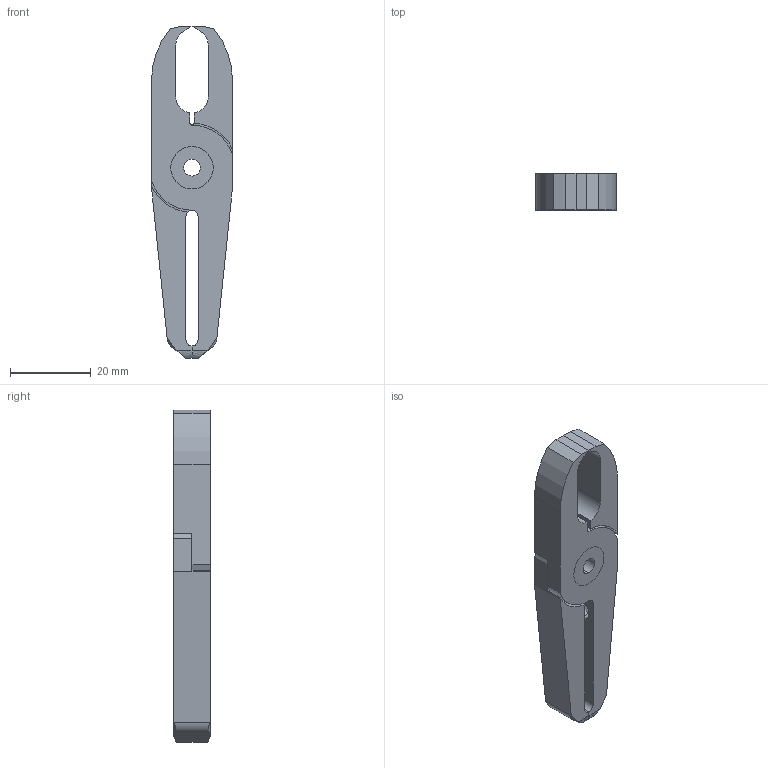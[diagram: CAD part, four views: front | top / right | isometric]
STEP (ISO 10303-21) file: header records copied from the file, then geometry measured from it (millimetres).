
FILE_DESCRIPTION (( 'STEP AP214' ), '1' );
FILE_NAME ('NT10AE.STEP', '2019-11-29T01:03:48', ( '微软用户' ), ( '微软中国' ), 'SwSTEP 2.0', 'SolidWorks 2016', '' );
FILE_SCHEMA (( 'AUTOMOTIVE_DESIGN' ));
Length unit declared in the file: millimetre
Products named in the file (4): BR2; BR1; BS; NT10AE
Assembly tree (3 placements, depth 2):
  NT10AE
    BS
    BR1
    BR2
Bounding box: 20 x 9 x 82 mm (x, y, z)
Volume: 9866.6 mm3; surface area: 6837.5 mm2
Topology: 3 solids, 3 shells, 92 faces, 242 edges, 154 vertices
Faces by surface type: plane 38, cylinder 24, cone 16, bspline 14
Entity records: 3038 total; most frequent: CARTESIAN_POINT 700, ORIENTED_EDGE 476, DIRECTION 442, EDGE_CURVE 238, VERTEX_POINT 154, AXIS2_PLACEMENT_3D 148, LINE 146, VECTOR 146
